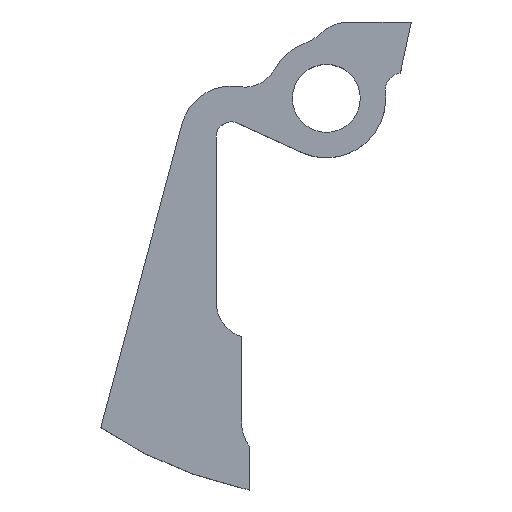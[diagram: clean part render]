
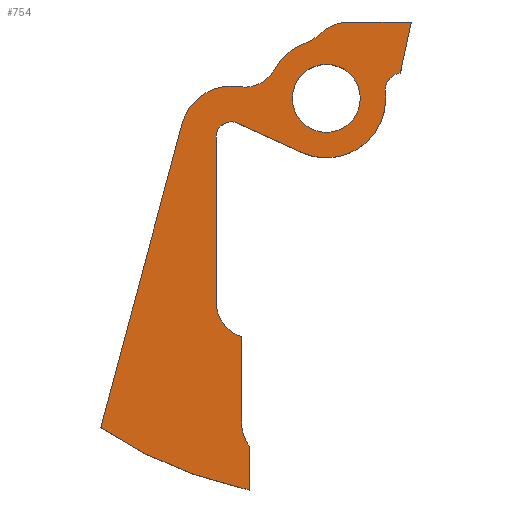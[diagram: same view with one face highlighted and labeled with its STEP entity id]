
A CAD part, top view. The second image highlights one B-rep face of the part: STEP entity #754.
In plain terms, the highlighted planar face has unit normal (0, 0, 1).
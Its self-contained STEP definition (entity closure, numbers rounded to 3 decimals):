
#63=CARTESIAN_POINT('Vertex',(6.956,0.787,10.)) ;
#77=CARTESIAN_POINT('Vertex',(8.724,3.,10.)) ;
#80=CARTESIAN_POINT('Axis2P3D Location',(8.943,1.012,10.)) ;
#108=CARTESIAN_POINT('Vertex',(10.,9.,10.)) ;
#111=CARTESIAN_POINT('Line Origine',(9.362,6.,10.)) ;
#139=CARTESIAN_POINT('Vertex',(2.755,9.,10.)) ;
#142=CARTESIAN_POINT('Line Origine',(6.378,9.,10.)) ;
#170=CARTESIAN_POINT('Vertex',(-0.674,7.638,10.)) ;
#173=CARTESIAN_POINT('Axis2P3D Location',(2.755,4.,10.)) ;
#201=CARTESIAN_POINT('Vertex',(-2.394,6.578,10.)) ;
#204=CARTESIAN_POINT('Axis2P3D Location',(-4.104,11.276,10.)) ;
#232=CARTESIAN_POINT('Vertex',(-6.126,3.387,10.)) ;
#235=CARTESIAN_POINT('Axis2P3D Location',(0.,0.,10.)) ;
#263=CARTESIAN_POINT('Vertex',(-10.258,1.372,10.)) ;
#266=CARTESIAN_POINT('Axis2P3D Location',(-9.627,5.322,10.)) ;
#294=CARTESIAN_POINT('Vertex',(-17.,-3.,10.)) ;
#297=CARTESIAN_POINT('Axis2P3D Location',(-11.204,-4.553,10.)) ;
#325=CARTESIAN_POINT('Vertex',(-26.582,-38.761,10.)) ;
#328=CARTESIAN_POINT('Line Origine',(-21.791,-20.88,10.)) ;
#356=CARTESIAN_POINT('Vertex',(-10.,-45.924,10.)) ;
#359=CARTESIAN_POINT('Axis2P3D Location',(0.,0.,10.)) ;
#382=CARTESIAN_POINT('Vertex',(-9.,-46.13,10.)) ;
#385=CARTESIAN_POINT('Axis2P3D Location',(0.,0.,10.)) ;
#413=CARTESIAN_POINT('Vertex',(-9.,-41.13,10.)) ;
#416=CARTESIAN_POINT('Line Origine',(-9.,-43.63,10.)) ;
#444=CARTESIAN_POINT('Vertex',(-10.,-38.13,10.)) ;
#447=CARTESIAN_POINT('Axis2P3D Location',(-5.,-38.13,10.)) ;
#475=CARTESIAN_POINT('Vertex',(-10.,-28.097,10.)) ;
#478=CARTESIAN_POINT('Line Origine',(-10.,-33.113,10.)) ;
#506=CARTESIAN_POINT('Vertex',(-13.,-23.954,10.)) ;
#509=CARTESIAN_POINT('Axis2P3D Location',(-8.64,-23.954,10.)) ;
#537=CARTESIAN_POINT('Vertex',(-13.,-4.553,10.)) ;
#540=CARTESIAN_POINT('Line Origine',(-13.,-14.254,10.)) ;
#568=CARTESIAN_POINT('Vertex',(-10.459,-2.92,10.)) ;
#571=CARTESIAN_POINT('Axis2P3D Location',(-11.204,-4.553,10.)) ;
#599=CARTESIAN_POINT('Vertex',(-2.908,-6.368,10.)) ;
#602=CARTESIAN_POINT('Line Origine',(-6.683,-4.644,10.)) ;
#624=CARTESIAN_POINT('Axis2P3D Location',(0.,0.,10.)) ;
#641=CARTESIAN_POINT('Axis2P3D Location',(0.,0.,10.)) ;
#645=CARTESIAN_POINT('Vertex',(-4.,0.,10.)) ;
#647=CARTESIAN_POINT('Vertex',(4.,0.,10.)) ;
#676=CARTESIAN_POINT('Axis2P3D Location',(0.,0.,10.)) ;
#724=CARTESIAN_POINT('Axis2P3D Location',(0.,0.,10.)) ;
#81=DIRECTION('Axis2P3D Direction',(0.,0.,1.)) ;
#112=DIRECTION('Vector Direction',(-0.208,-0.978,0.)) ;
#143=DIRECTION('Vector Direction',(-1.,0.,0.)) ;
#174=DIRECTION('Axis2P3D Direction',(0.,0.,1.)) ;
#205=DIRECTION('Axis2P3D Direction',(0.,0.,1.)) ;
#236=DIRECTION('Axis2P3D Direction',(0.,0.,1.)) ;
#267=DIRECTION('Axis2P3D Direction',(0.,0.,1.)) ;
#298=DIRECTION('Axis2P3D Direction',(0.,0.,1.)) ;
#329=DIRECTION('Vector Direction',(-0.259,-0.966,0.)) ;
#360=DIRECTION('Axis2P3D Direction',(0.,0.,1.)) ;
#386=DIRECTION('Axis2P3D Direction',(0.,0.,1.)) ;
#417=DIRECTION('Vector Direction',(0.,-1.,0.)) ;
#448=DIRECTION('Axis2P3D Direction',(0.,0.,1.)) ;
#479=DIRECTION('Vector Direction',(0.,-1.,0.)) ;
#510=DIRECTION('Axis2P3D Direction',(0.,0.,1.)) ;
#541=DIRECTION('Vector Direction',(0.,1.,0.)) ;
#572=DIRECTION('Axis2P3D Direction',(0.,0.,1.)) ;
#603=DIRECTION('Vector Direction',(0.91,-0.415,0.)) ;
#625=DIRECTION('Axis2P3D Direction',(0.,0.,1.)) ;
#642=DIRECTION('Axis2P3D Direction',(0.,0.,1.)) ;
#677=DIRECTION('Axis2P3D Direction',(0.,0.,1.)) ;
#725=DIRECTION('Axis2P3D Direction',(0.,0.,1.)) ;
#726=DIRECTION('Axis2P3D XDirection',(1.,0.,0.)) ;
#82=AXIS2_PLACEMENT_3D('Circle Axis2P3D',#80,#81,$) ;
#175=AXIS2_PLACEMENT_3D('Circle Axis2P3D',#173,#174,$) ;
#206=AXIS2_PLACEMENT_3D('Circle Axis2P3D',#204,#205,$) ;
#237=AXIS2_PLACEMENT_3D('Circle Axis2P3D',#235,#236,$) ;
#268=AXIS2_PLACEMENT_3D('Circle Axis2P3D',#266,#267,$) ;
#299=AXIS2_PLACEMENT_3D('Circle Axis2P3D',#297,#298,$) ;
#361=AXIS2_PLACEMENT_3D('Circle Axis2P3D',#359,#360,$) ;
#387=AXIS2_PLACEMENT_3D('Circle Axis2P3D',#385,#386,$) ;
#449=AXIS2_PLACEMENT_3D('Circle Axis2P3D',#447,#448,$) ;
#511=AXIS2_PLACEMENT_3D('Circle Axis2P3D',#509,#510,$) ;
#573=AXIS2_PLACEMENT_3D('Circle Axis2P3D',#571,#572,$) ;
#626=AXIS2_PLACEMENT_3D('Circle Axis2P3D',#624,#625,$) ;
#643=AXIS2_PLACEMENT_3D('Circle Axis2P3D',#641,#642,$) ;
#678=AXIS2_PLACEMENT_3D('Circle Axis2P3D',#676,#677,$) ;
#727=AXIS2_PLACEMENT_3D('Plane Axis2P3D',#724,#725,#726) ;
#730=ORIENTED_EDGE('',*,*,#84,.T.) ;
#731=ORIENTED_EDGE('',*,*,#115,.T.) ;
#732=ORIENTED_EDGE('',*,*,#146,.T.) ;
#733=ORIENTED_EDGE('',*,*,#177,.T.) ;
#734=ORIENTED_EDGE('',*,*,#208,.T.) ;
#735=ORIENTED_EDGE('',*,*,#239,.T.) ;
#736=ORIENTED_EDGE('',*,*,#270,.T.) ;
#737=ORIENTED_EDGE('',*,*,#301,.T.) ;
#738=ORIENTED_EDGE('',*,*,#332,.T.) ;
#739=ORIENTED_EDGE('',*,*,#363,.T.) ;
#740=ORIENTED_EDGE('',*,*,#389,.T.) ;
#741=ORIENTED_EDGE('',*,*,#420,.T.) ;
#742=ORIENTED_EDGE('',*,*,#451,.T.) ;
#743=ORIENTED_EDGE('',*,*,#482,.T.) ;
#744=ORIENTED_EDGE('',*,*,#513,.T.) ;
#745=ORIENTED_EDGE('',*,*,#544,.T.) ;
#746=ORIENTED_EDGE('',*,*,#575,.T.) ;
#747=ORIENTED_EDGE('',*,*,#606,.T.) ;
#748=ORIENTED_EDGE('',*,*,#628,.T.) ;
#751=ORIENTED_EDGE('',*,*,#649,.F.) ;
#752=ORIENTED_EDGE('',*,*,#680,.F.) ;
#753=FACE_BOUND('',#750,.T.) ;
#113=VECTOR('Line Direction',#112,1.) ;
#144=VECTOR('Line Direction',#143,1.) ;
#330=VECTOR('Line Direction',#329,1.) ;
#418=VECTOR('Line Direction',#417,1.) ;
#480=VECTOR('Line Direction',#479,1.) ;
#542=VECTOR('Line Direction',#541,1.) ;
#604=VECTOR('Line Direction',#603,1.) ;
#754=ADVANCED_FACE('Corps principal',(#749,#753),#728,.T.) ;
#83=CIRCLE('generated circle',#82,2.) ;
#176=CIRCLE('generated circle',#175,5.) ;
#207=CIRCLE('generated circle',#206,5.) ;
#238=CIRCLE('generated circle',#237,7.) ;
#269=CIRCLE('generated circle',#268,4.) ;
#300=CIRCLE('generated circle',#299,6.) ;
#362=CIRCLE('generated circle',#361,47.) ;
#388=CIRCLE('generated circle',#387,47.) ;
#450=CIRCLE('generated circle',#449,5.) ;
#512=CIRCLE('generated circle',#511,4.36) ;
#574=CIRCLE('generated circle',#573,1.796) ;
#627=CIRCLE('generated circle',#626,7.) ;
#644=CIRCLE('generated circle',#643,4.) ;
#679=CIRCLE('generated circle',#678,4.) ;
#84=EDGE_CURVE('',#64,#78,#83,.F.) ;
#115=EDGE_CURVE('',#78,#109,#114,.F.) ;
#146=EDGE_CURVE('',#109,#140,#145,.T.) ;
#177=EDGE_CURVE('',#140,#171,#176,.T.) ;
#208=EDGE_CURVE('',#171,#202,#207,.F.) ;
#239=EDGE_CURVE('',#202,#233,#238,.T.) ;
#270=EDGE_CURVE('',#233,#264,#269,.F.) ;
#301=EDGE_CURVE('',#264,#295,#300,.T.) ;
#332=EDGE_CURVE('',#295,#326,#331,.T.) ;
#363=EDGE_CURVE('',#326,#357,#362,.T.) ;
#389=EDGE_CURVE('',#357,#383,#388,.T.) ;
#420=EDGE_CURVE('',#383,#414,#419,.F.) ;
#451=EDGE_CURVE('',#414,#445,#450,.F.) ;
#482=EDGE_CURVE('',#445,#476,#481,.F.) ;
#513=EDGE_CURVE('',#476,#507,#512,.F.) ;
#544=EDGE_CURVE('',#507,#538,#543,.T.) ;
#575=EDGE_CURVE('',#538,#569,#574,.F.) ;
#606=EDGE_CURVE('',#569,#600,#605,.T.) ;
#628=EDGE_CURVE('',#600,#64,#627,.T.) ;
#649=EDGE_CURVE('',#646,#648,#644,.T.) ;
#680=EDGE_CURVE('',#648,#646,#679,.T.) ;
#729=EDGE_LOOP('',(#730,#731,#732,#733,#734,#735,#736,#737,#738,#739,#740,#741,#742,#743,#744,#745,#746,#747,#748)) ;
#750=EDGE_LOOP('',(#751,#752)) ;
#749=FACE_OUTER_BOUND('',#729,.T.) ;
#114=LINE('Line',#111,#113) ;
#145=LINE('Line',#142,#144) ;
#331=LINE('Line',#328,#330) ;
#419=LINE('Line',#416,#418) ;
#481=LINE('Line',#478,#480) ;
#543=LINE('Line',#540,#542) ;
#605=LINE('Line',#602,#604) ;
#728=PLANE('Plane',#727) ;
#64=VERTEX_POINT('',#63) ;
#78=VERTEX_POINT('',#77) ;
#109=VERTEX_POINT('',#108) ;
#140=VERTEX_POINT('',#139) ;
#171=VERTEX_POINT('',#170) ;
#202=VERTEX_POINT('',#201) ;
#233=VERTEX_POINT('',#232) ;
#264=VERTEX_POINT('',#263) ;
#295=VERTEX_POINT('',#294) ;
#326=VERTEX_POINT('',#325) ;
#357=VERTEX_POINT('',#356) ;
#383=VERTEX_POINT('',#382) ;
#414=VERTEX_POINT('',#413) ;
#445=VERTEX_POINT('',#444) ;
#476=VERTEX_POINT('',#475) ;
#507=VERTEX_POINT('',#506) ;
#538=VERTEX_POINT('',#537) ;
#569=VERTEX_POINT('',#568) ;
#600=VERTEX_POINT('',#599) ;
#646=VERTEX_POINT('',#645) ;
#648=VERTEX_POINT('',#647) ;
